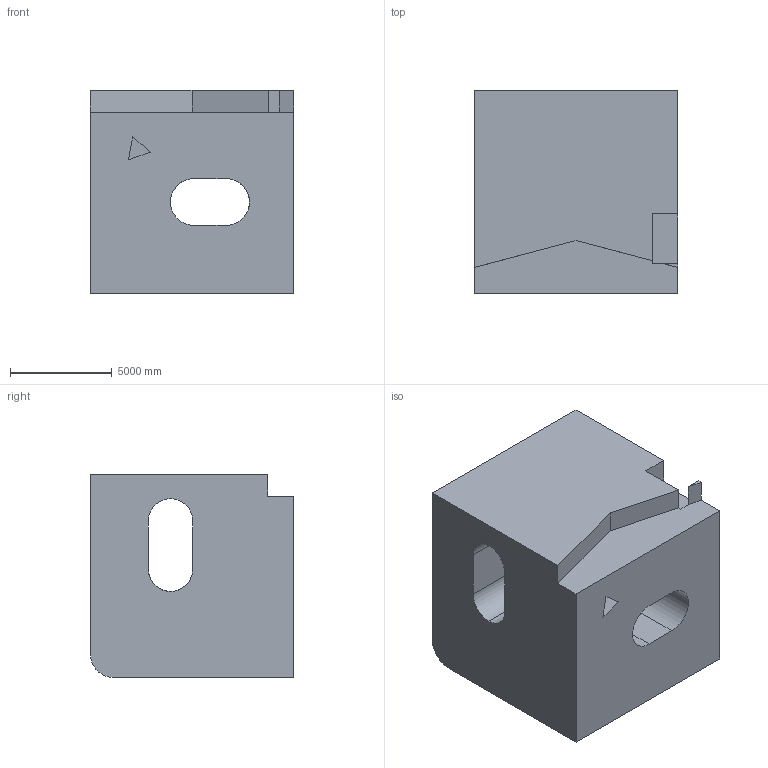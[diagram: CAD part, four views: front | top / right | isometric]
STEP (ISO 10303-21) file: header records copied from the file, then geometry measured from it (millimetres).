
FILE_DESCRIPTION (( 'STEP AP203' ), '1' );
FILE_NAME ('523.STEP', '2022-07-29T11:38:36', ( 'user' ), ( '' ), 'SwSTEP 2.0', 'SolidWorks 2021', '' );
FILE_SCHEMA (( 'CONFIG_CONTROL_DESIGN' ));
Length unit declared in the file: centimetre
Products named in the file (1): 523
Bounding box: 10000 x 10000 x 10000 mm (x, y, z)
Volume: 812558298642.8 mm3; surface area: 759289893 mm2
Topology: 1 solids, 1 shells, 32 faces, 93 edges, 62 vertices
Faces by surface type: plane 24, cylinder 8
Entity records: 1458 total; most frequent: CARTESIAN_POINT 512, ORIENTED_EDGE 186, DIRECTION 171, EDGE_CURVE 93, VECTOR 73, LINE 73, VERTEX_POINT 62, AXIS2_PLACEMENT_3D 49
